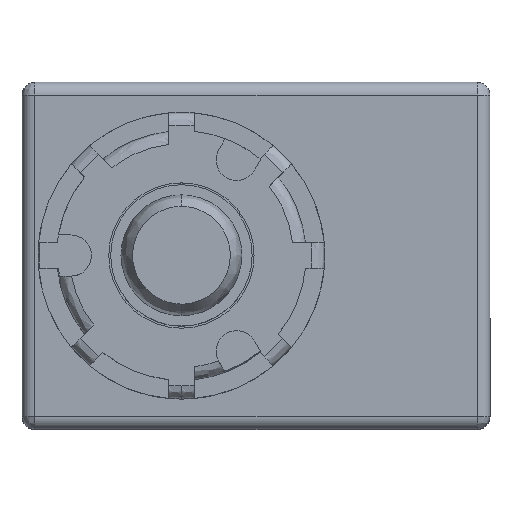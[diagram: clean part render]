
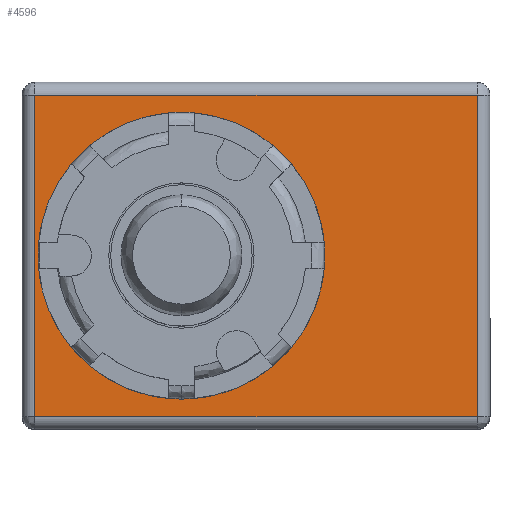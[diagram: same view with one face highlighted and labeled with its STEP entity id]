
A CAD part, top view. The second image highlights one B-rep face of the part: STEP entity #4596.
In plain terms, the highlighted planar face has unit normal (0, 0, 1) as drawn and (0, 1, 0) by its records, which use the part's own axes.
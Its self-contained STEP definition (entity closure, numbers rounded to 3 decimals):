
#409 = VERTEX_POINT ( 'NONE', #1779 ) ;
#1779 = CARTESIAN_POINT ( 'NONE',  ( -5.7, 8.3, -6.25 ) ) ;
#3051 = CARTESIAN_POINT ( 'NONE',  ( 11.5, 8.3, -6.25 ) ) ;
#3066 = CARTESIAN_POINT ( 'NONE',  ( -5.7, 8.3, 6.25 ) ) ;
#3158 = CARTESIAN_POINT ( 'NONE',  ( 11.5, 8.3, 6.25 ) ) ;
#3419 = DIRECTION ( 'NONE',  ( 0., 0., -1. ) ) ;
#3420 = DIRECTION ( 'NONE',  ( 0., -1., 0. ) ) ;
#3421 = CARTESIAN_POINT ( 'NONE',  ( 0., 8.3, 0. ) ) ;
#3422 = AXIS2_PLACEMENT_3D ( 'NONE', #3421, #3420, #3419 ) ;
#3423 = CIRCLE ( 'NONE', #3422, 5. ) ;
#3444 = FACE_OUTER_BOUND ( 'NONE', #4600, .T. ) ;
#3445 = FACE_BOUND ( 'NONE', #4599, .T. ) ;
#3462 = CARTESIAN_POINT ( 'NONE',  ( 0., 8.3, 0. ) ) ;
#3463 = AXIS2_PLACEMENT_3D ( 'NONE', #3462, #3503, #3502 ) ;
#3464 = CIRCLE ( 'NONE', #3463, 5. ) ;
#3467 = CARTESIAN_POINT ( 'NONE',  ( 0., 8.3, -5. ) ) ;
#3468 = DIRECTION ( 'NONE',  ( 0., 0., -1. ) ) ;
#3469 = DIRECTION ( 'NONE',  ( 0., -1., 0. ) ) ;
#3470 = CARTESIAN_POINT ( 'NONE',  ( -5.7, 8.3, 6.25 ) ) ;
#3471 = AXIS2_PLACEMENT_3D ( 'NONE', #3470, #3469, #3468 ) ;
#3472 = PLANE ( 'NONE',  #3471 ) ;
#3501 = CARTESIAN_POINT ( 'NONE',  ( 0., 8.3, 5. ) ) ;
#3502 = DIRECTION ( 'NONE',  ( 0., 0., -1. ) ) ;
#3503 = DIRECTION ( 'NONE',  ( 0., -1., 0. ) ) ;
#4241 = LINE ( 'NONE', #4284, #4283 ) ;
#4282 = DIRECTION ( 'NONE',  ( -1., 0., 0. ) ) ;
#4283 = VECTOR ( 'NONE', #4282, 1000. ) ;
#4284 = CARTESIAN_POINT ( 'NONE',  ( 2.9, 8.3, 6.25 ) ) ;
#4295 = DIRECTION ( 'NONE',  ( 0., 0., 1. ) ) ;
#4296 = VECTOR ( 'NONE', #4295, 1000. ) ;
#4297 = CARTESIAN_POINT ( 'NONE',  ( 11.5, 8.3, 0. ) ) ;
#4298 = LINE ( 'NONE', #4297, #4296 ) ;
#4300 = DIRECTION ( 'NONE',  ( 1., 0., 0. ) ) ;
#4301 = VECTOR ( 'NONE', #4300, 1000. ) ;
#4302 = CARTESIAN_POINT ( 'NONE',  ( 2.9, 8.3, -6.25 ) ) ;
#4303 = LINE ( 'NONE', #4302, #4301 ) ;
#4311 = DIRECTION ( 'NONE',  ( 0., 0., -1. ) ) ;
#4312 = VECTOR ( 'NONE', #4311, 1000. ) ;
#4313 = CARTESIAN_POINT ( 'NONE',  ( -5.7, 8.3, 0. ) ) ;
#4314 = LINE ( 'NONE', #4313, #4312 ) ;
#4449 = VERTEX_POINT ( 'NONE', #3066 ) ;
#4455 = VERTEX_POINT ( 'NONE', #3051 ) ;
#4471 = VERTEX_POINT ( 'NONE', #3158 ) ;
#4583 = ORIENTED_EDGE ( 'NONE', *, *, #4584, .T. ) ;
#4584 = EDGE_CURVE ( 'NONE', #4605, #4597, #3423, .T. ) ;
#4587 = ORIENTED_EDGE ( 'NONE', *, *, #4940, .F. ) ;
#4596 = ADVANCED_FACE ( 'NONE', ( #3445, #3444 ), #3472, .F. ) ;
#4597 = VERTEX_POINT ( 'NONE', #3467 ) ;
#4599 = EDGE_LOOP ( 'NONE', ( #4603, #4583 ) ) ;
#4600 = EDGE_LOOP ( 'NONE', ( #4587, #4631, #4635, #4728 ) ) ;
#4603 = ORIENTED_EDGE ( 'NONE', *, *, #4604, .T. ) ;
#4604 = EDGE_CURVE ( 'NONE', #4597, #4605, #3464, .T. ) ;
#4605 = VERTEX_POINT ( 'NONE', #3501 ) ;
#4631 = ORIENTED_EDGE ( 'NONE', *, *, #4933, .F. ) ;
#4635 = ORIENTED_EDGE ( 'NONE', *, *, #4917, .F. ) ;
#4728 = ORIENTED_EDGE ( 'NONE', *, *, #4942, .F. ) ;
#4917 = EDGE_CURVE ( 'NONE', #4471, #4449, #4241, .T. ) ;
#4933 = EDGE_CURVE ( 'NONE', #4449, #409, #4314, .T. ) ;
#4940 = EDGE_CURVE ( 'NONE', #409, #4455, #4303, .T. ) ;
#4942 = EDGE_CURVE ( 'NONE', #4455, #4471, #4298, .T. ) ;
